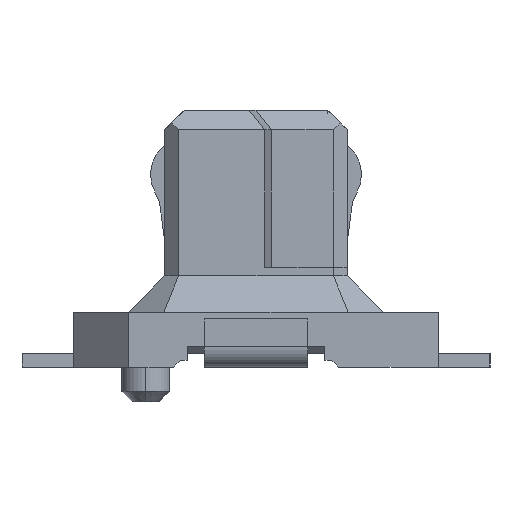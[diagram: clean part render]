
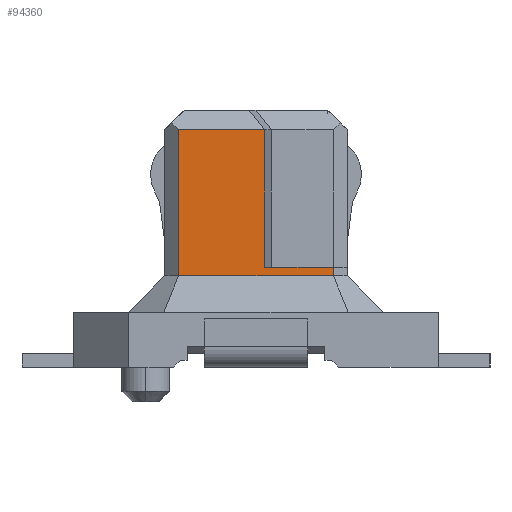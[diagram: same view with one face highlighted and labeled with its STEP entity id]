
A CAD part, left-side view. The second image highlights one B-rep face of the part: STEP entity #94360.
In plain terms, the highlighted planar face has unit normal (-1, 0, 0).
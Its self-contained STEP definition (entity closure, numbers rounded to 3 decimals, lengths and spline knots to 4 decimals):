
#65960=CARTESIAN_POINT('',(7.923,-3.166,1.45));
#65970=VERTEX_POINT('',#65960);
#66000=CARTESIAN_POINT('',(7.923,0.,1.45));
#66010=DIRECTION('',(0.,1.,0.));
#66020=VECTOR('',#66010,1.);
#66030=LINE('',#66000,#66020);
#66040=CARTESIAN_POINT('',(7.923,-2.166,1.45));
#66050=VERTEX_POINT('',#66040);
#66060=EDGE_CURVE('',#65970,#66050,#66030,.T.);
#67180=CARTESIAN_POINT('',(7.923,-0.916,3.45));
#67190=VERTEX_POINT('',#67180);
#67220=CARTESIAN_POINT('',(7.923,-0.916,0.8));
#67230=DIRECTION('',(0.,0.,1.));
#67240=VECTOR('',#67230,1.);
#67250=LINE('',#67220,#67240);
#67260=CARTESIAN_POINT('',(7.923,-0.916,1.325));
#67270=VERTEX_POINT('',#67260);
#67280=EDGE_CURVE('',#67270,#67190,#67250,.T.);
#67570=CARTESIAN_POINT('',(7.923,-3.166,1.325));
#67580=VERTEX_POINT('',#67570);
#67890=CARTESIAN_POINT('',(7.923,-2.041,1.325));
#67900=DIRECTION('',(0.,-1.,0.));
#67910=VECTOR('',#67900,1.);
#67920=LINE('',#67890,#67910);
#67930=EDGE_CURVE('',#67270,#67580,#67920,.T.);
#68210=CARTESIAN_POINT('',(7.923,-3.166,0.8));
#68220=DIRECTION('',(0.,0.,1.));
#68230=VECTOR('',#68220,1.);
#68240=LINE('',#68210,#68230);
#68250=EDGE_CURVE('',#67580,#65970,#68240,.T.);
#94110=CARTESIAN_POINT('',(7.923,-2.166,1.35));
#94120=DIRECTION('',(1.,0.,0.));
#94130=DIRECTION('',(0.,-1.,0.));
#94140=AXIS2_PLACEMENT_3D('',#94110,#94120,#94130);
#94150=PLANE('',#94140);
#94160=CARTESIAN_POINT('',(7.923,0.,3.45));
#94170=DIRECTION('',(0.,1.,0.));
#94180=VECTOR('',#94170,1.);
#94190=LINE('',#94160,#94180);
#94200=CARTESIAN_POINT('',(7.923,-2.166,3.45));
#94210=VERTEX_POINT('',#94200);
#94220=EDGE_CURVE('',#94210,#67190,#94190,.T.);
#94230=ORIENTED_EDGE('',*,*,#94220,.T.);
#94240=CARTESIAN_POINT('',(7.923,-2.166,0.));
#94250=DIRECTION('',(0.,0.,-1.));
#94260=VECTOR('',#94250,1.);
#94270=LINE('',#94240,#94260);
#94280=EDGE_CURVE('',#94210,#66050,#94270,.T.);
#94290=ORIENTED_EDGE('',*,*,#94280,.F.);
#94300=ORIENTED_EDGE('',*,*,#66060,.T.);
#94310=ORIENTED_EDGE('',*,*,#68250,.T.);
#94320=ORIENTED_EDGE('',*,*,#67930,.T.);
#94330=ORIENTED_EDGE('',*,*,#67280,.F.);
#94340=EDGE_LOOP('',(#94330,#94320,#94310,#94300,#94290,#94230));
#94350=FACE_OUTER_BOUND('',#94340,.T.);
#94360=ADVANCED_FACE('',(#94350),#94150,.F.);
